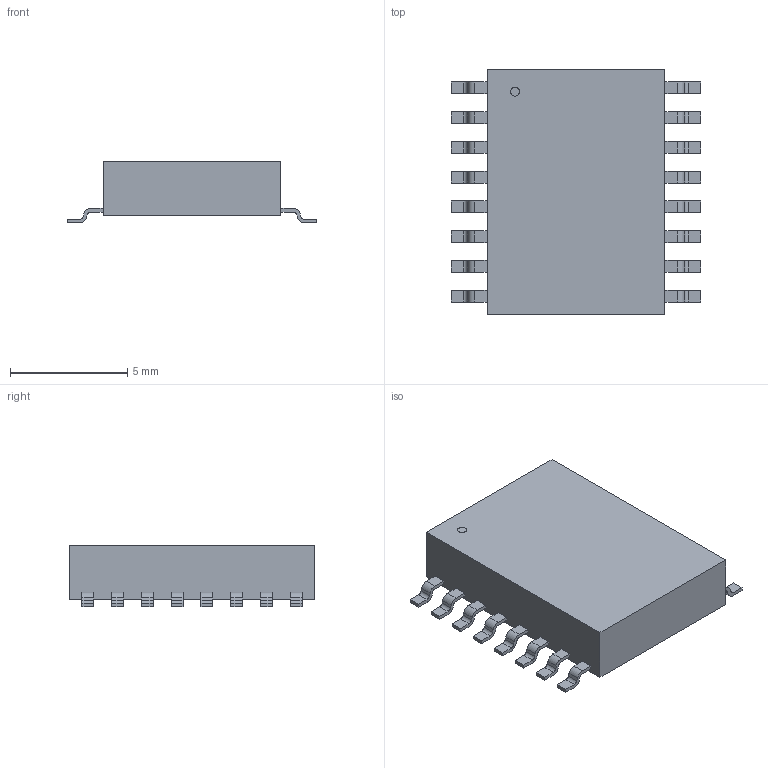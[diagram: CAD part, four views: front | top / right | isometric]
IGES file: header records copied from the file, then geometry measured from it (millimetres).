
Global section: file name: Filename.iges; native system: Open CASCADE 7.7; preprocessor: Open CASCADE IGES processor 7.7; author: SYSTEM; date: 20260323.233228; units: millimetre
Bounding box: 10.64 x 10.49 x 2.64 mm (x, y, z)
Surface area: 284.3 mm2 (no closed solid volume)
Topology: 0 solids, 0 shells, 233 faces, 1182 edges, 1180 vertices
Faces by surface type: plane 168, revolution 65
